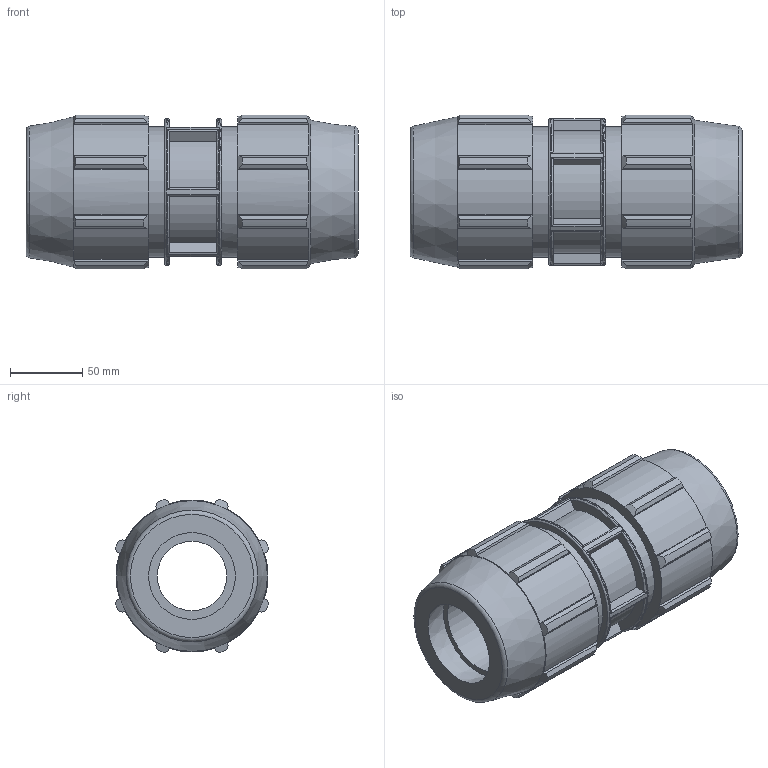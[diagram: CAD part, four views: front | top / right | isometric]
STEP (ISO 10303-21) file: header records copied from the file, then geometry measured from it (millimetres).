
FILE_DESCRIPTION(/* description */ ('PLASSON COUPLER 2'''' - 63mm'),/* implementation_level */ '2;1');
FILE_NAME(/* name */ 'C:\Dropbox\KIMPROJECTS-Inventor 2019\99-16-3568-Processing Inch\ASTM Compression 2021\0701M\0701M020.ipt.stp',/* time_stamp */ '2021-08-26T12:29:22+03:00',/* author */ ('KIM'),/* organization */ (''),/* preprocessor_version */ 'ST-DEVELOPER v17.2',/* originating_system */ 'Autodesk Inventor 2019',/* authorisation */ '');
FILE_SCHEMA (('AUTOMOTIVE_DESIGN { 1 0 10303 214 3 1 1 }'));
Length unit declared in the file: inch
Products named in the file (1): 0701M020
Bounding box: 229.87 x 106.35 x 106.35 mm (x, y, z)
Volume: 1089328.3 mm3; surface area: 146531.6 mm2
Topology: 1 solids, 1 shells, 193 faces, 552 edges, 375 vertices
Faces by surface type: plane 98, cylinder 56, cone 23, torus 16
Full cylindrical faces by diameter (mm): 48.08 x1, 60.1 x1, 63 x1, 90.424 x2, 101.727 x1
Entity records: 6840 total; most frequent: CARTESIAN_POINT 1633, ORIENTED_EDGE 1104, DIRECTION 1003, EDGE_CURVE 552, VERTEX_POINT 375, AXIS2_PLACEMENT_3D 369, LINE 265, VECTOR 265
